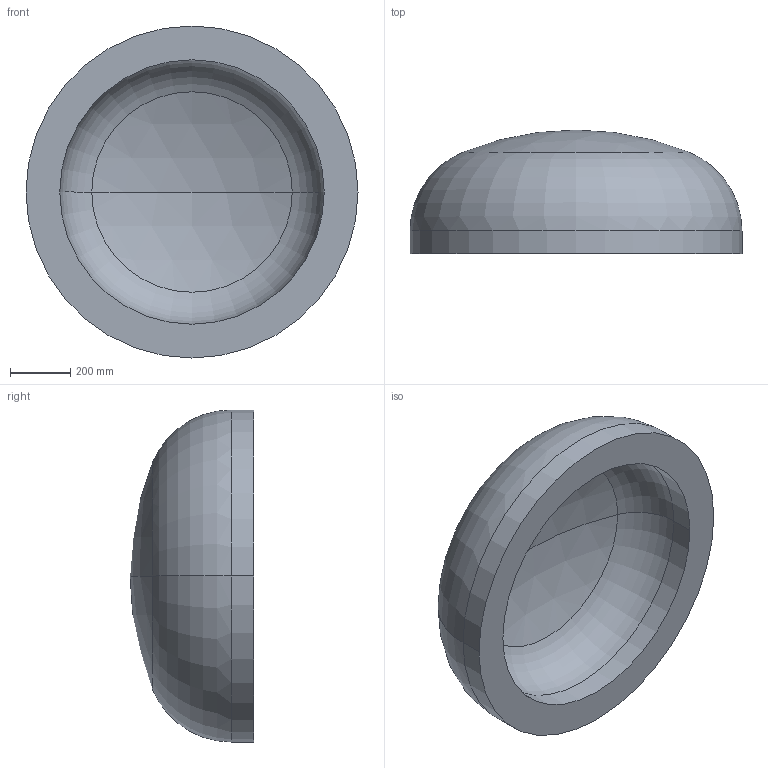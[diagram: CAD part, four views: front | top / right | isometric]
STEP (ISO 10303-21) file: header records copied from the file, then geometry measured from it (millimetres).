
FILE_DESCRIPTION (( 'STEP AP203' ), '1' );
FILE_NAME ('DIN 28013 Korbbogenform_-_Boden DIN 28013 - 1100 x 75 - I - s=112.step', '2016-07-01T09:17:36', ( '' ), ( '' ), 'SwSTEP 2.0', 'SolidWorks 2013', '' );
FILE_SCHEMA (( 'CONFIG_CONTROL_DESIGN' ));
Length unit declared in the file: millimetre
Products named in the file (1): DIN 28013 Korbbogenform_-_Boden DIN 28013 - 1100 x 75 - I - s=112
Bounding box: 1100 x 409.52 x 1100 mm (x, y, z)
Volume: 156154571.4 mm3; surface area: 3162382.2 mm2
Topology: 1 solids, 1 shells, 13 faces, 24 edges, 14 vertices
Faces by surface type: torus 4, cylinder 4, sphere 4, plane 1
Entity records: 407 total; most frequent: DIRECTION 72, CARTESIAN_POINT 52, ORIENTED_EDGE 48, AXIS2_PLACEMENT_3D 34, EDGE_CURVE 24, CIRCLE 20, EDGE_LOOP 14, VERTEX_POINT 14
